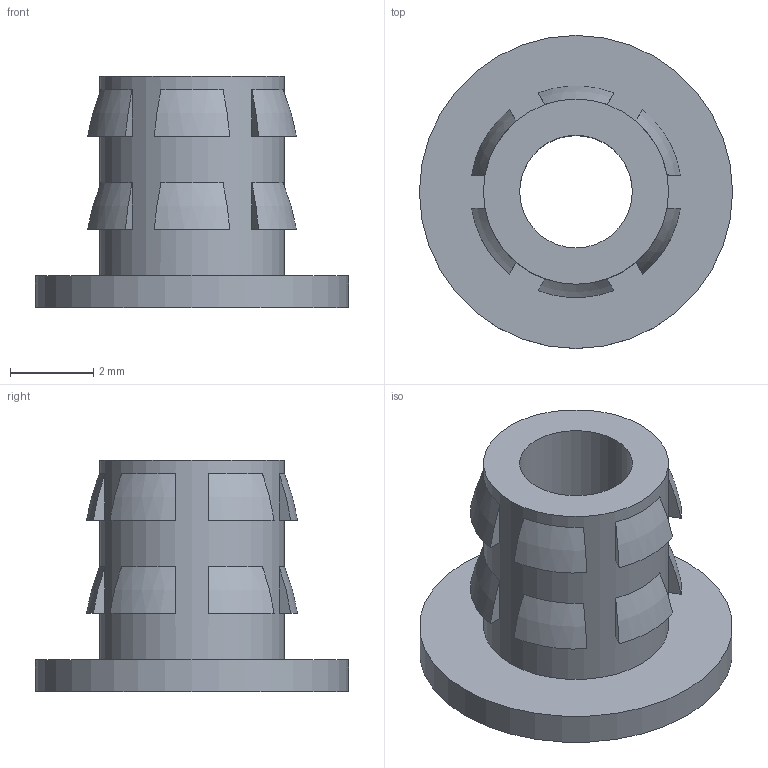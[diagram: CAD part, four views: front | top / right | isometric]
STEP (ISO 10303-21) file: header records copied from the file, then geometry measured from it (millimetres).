
FILE_DESCRIPTION (( 'STEP AP214' ), '1' );
FILE_NAME ('flanged insert 6-32 S1.STEP', '2017-08-09T09:21:40', ( '微软用户' ), ( '微软中国' ), 'SwSTEP 2.0', 'SolidWorks 2015', '' );
FILE_SCHEMA (( 'AUTOMOTIVE_DESIGN' ));
Length unit declared in the file: millimetre
Products named in the file (1): flanged insert 6-32 S1
Bounding box: 7.52 x 7.52 x 5.55 mm (x, y, z)
Volume: 76.9 mm3; surface area: 220.9 mm2
Topology: 1 solids, 1 shells, 55 faces, 119 edges, 79 vertices
Faces by surface type: plane 39, torus 12, cylinder 3, cone 1
Full cylindrical faces by diameter (mm): 2.705 x1, 4.445 x1, 7.518 x1
Entity records: 1570 total; most frequent: CARTESIAN_POINT 342, DIRECTION 246, ORIENTED_EDGE 230, EDGE_CURVE 115, AXIS2_PLACEMENT_3D 99, VERTEX_POINT 79, EDGE_LOOP 74, FACE_OUTER_BOUND 58
